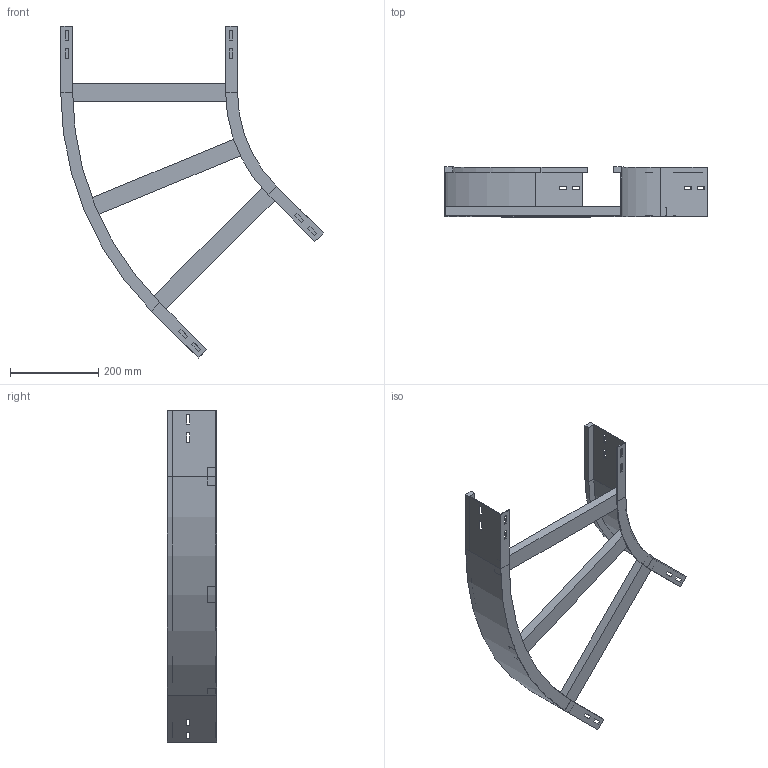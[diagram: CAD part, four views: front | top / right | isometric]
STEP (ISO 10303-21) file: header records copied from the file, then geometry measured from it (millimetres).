
FILE_DESCRIPTION (( 'STEP AP214' ), '1' );
FILE_NAME ('A2_11B3J400.step', '2025-02-21T15:14:18', ( '' ), ( '' ), 'SwSTEP 2.0', 'SolidWorks 2023', '' );
FILE_SCHEMA (( 'AUTOMOTIVE_DESIGN' ));
Length unit declared in the file: millimetre
Products named in the file (4): A2_LONGH.INTERNO 45°_H112.5_R300; TRAVERSINO_400; A2_11B3J400; A2_LONGH.ESTERNO 45°_H112.5_R300+400
Assembly tree (5 placements, depth 2):
  A2_11B3J400
    A2_LONGH.INTERNO 45°_H112.5_R300
    A2_LONGH.ESTERNO 45°_H112.5_R300+400
    TRAVERSINO_400  x3
Bounding box: 593.93 x 112.5 x 751.04 mm (x, y, z)
Volume: 1604332.9 mm3; surface area: 578262.8 mm2
Topology: 5 solids, 5 shells, 134 faces, 340 edges, 216 vertices
Faces by surface type: plane 126, cylinder 8
Entity records: 3821 total; most frequent: CARTESIAN_POINT 646, ORIENTED_EDGE 632, DIRECTION 592, EDGE_CURVE 316, VECTOR 300, LINE 300, VERTEX_POINT 200, EDGE_LOOP 154
